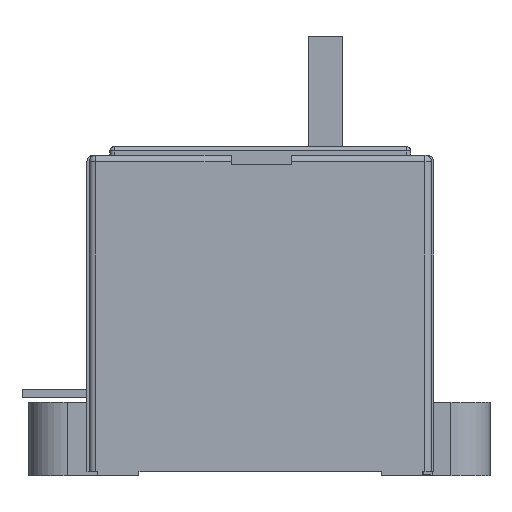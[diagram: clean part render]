
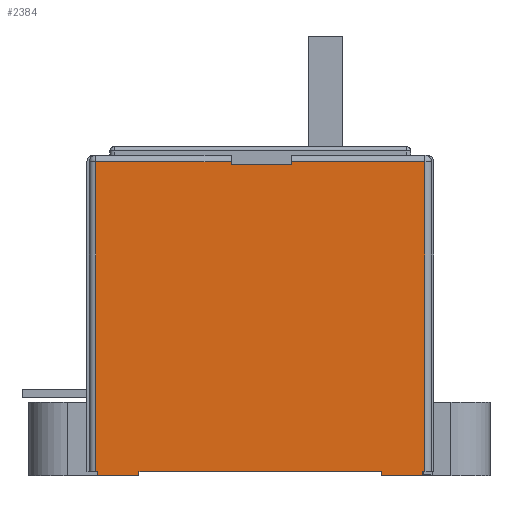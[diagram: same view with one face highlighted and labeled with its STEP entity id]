
A CAD part, left-side view. The second image highlights one B-rep face of the part: STEP entity #2384.
In plain terms, the highlighted planar face has unit normal (-1, 0, 0).
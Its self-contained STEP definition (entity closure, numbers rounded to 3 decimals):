
#230=PLANE('',#7351);
#563=FACE_OUTER_BOUND('',#2991,.T.);
#887=LINE('',#10126,#1609);
#936=LINE('',#10243,#1658);
#938=LINE('',#10249,#1660);
#1017=LINE('',#10598,#1739);
#1034=LINE('',#10685,#1756);
#1078=LINE('',#10799,#1800);
#1083=LINE('',#10811,#1805);
#1085=LINE('',#10814,#1807);
#1091=LINE('',#10827,#1813);
#1258=LINE('',#11165,#1980);
#1264=LINE('',#11176,#1986);
#1265=LINE('',#11180,#1987);
#1266=LINE('',#11182,#1988);
#1267=LINE('',#11184,#1989);
#1268=LINE('',#11185,#1990);
#1269=LINE('',#11186,#1991);
#1609=VECTOR('',#8157,1.);
#1658=VECTOR('',#8242,1.);
#1660=VECTOR('',#8248,1.);
#1739=VECTOR('',#8565,1.);
#1756=VECTOR('',#8682,1.);
#1800=VECTOR('',#8800,1.);
#1805=VECTOR('',#8807,1.);
#1807=VECTOR('',#8811,1.);
#1813=VECTOR('',#8819,1.);
#1980=VECTOR('',#9116,1.);
#1986=VECTOR('',#9128,1.);
#1987=VECTOR('',#9133,1.);
#1988=VECTOR('',#9134,1.);
#1989=VECTOR('',#9135,1.);
#1990=VECTOR('',#9136,1.);
#1991=VECTOR('',#9137,1.);
#2384=ADVANCED_FACE('',(#563),#230,.F.);
#2991=EDGE_LOOP('',(#4496,#4497,#4498,#4499,#4500,#4501,#4502,#4503,#4504,
#4505,#4506,#4507,#4508,#4509,#4510,#4511));
#4496=ORIENTED_EDGE('',*,*,#6468,.F.);
#4497=ORIENTED_EDGE('',*,*,#6213,.T.);
#4498=ORIENTED_EDGE('',*,*,#6015,.T.);
#4499=ORIENTED_EDGE('',*,*,#5959,.F.);
#4500=ORIENTED_EDGE('',*,*,#6018,.T.);
#4501=ORIENTED_EDGE('',*,*,#6170,.T.);
#4502=ORIENTED_EDGE('',*,*,#6470,.T.);
#4503=ORIENTED_EDGE('',*,*,#6471,.T.);
#4504=ORIENTED_EDGE('',*,*,#6472,.F.);
#4505=ORIENTED_EDGE('',*,*,#6269,.F.);
#4506=ORIENTED_EDGE('',*,*,#6274,.T.);
#4507=ORIENTED_EDGE('',*,*,#6473,.T.);
#4508=ORIENTED_EDGE('',*,*,#6282,.F.);
#4509=ORIENTED_EDGE('',*,*,#6276,.F.);
#4510=ORIENTED_EDGE('',*,*,#6462,.T.);
#4511=ORIENTED_EDGE('',*,*,#6474,.T.);
#5241=VERTEX_POINT('',#10125);
#5242=VERTEX_POINT('',#10127);
#5288=VERTEX_POINT('',#10244);
#5290=VERTEX_POINT('',#10250);
#5397=VERTEX_POINT('',#10593);
#5398=VERTEX_POINT('',#10597);
#5452=VERTEX_POINT('',#10800);
#5453=VERTEX_POINT('',#10801);
#5457=VERTEX_POINT('',#10810);
#5458=VERTEX_POINT('',#10815);
#5459=VERTEX_POINT('',#10816);
#5462=VERTEX_POINT('',#10824);
#5569=VERTEX_POINT('',#11164);
#5572=VERTEX_POINT('',#11177);
#5573=VERTEX_POINT('',#11181);
#5574=VERTEX_POINT('',#11183);
#5959=EDGE_CURVE('',#5241,#5242,#887,.T.);
#6015=EDGE_CURVE('',#5288,#5242,#936,.T.);
#6018=EDGE_CURVE('',#5241,#5290,#938,.T.);
#6170=EDGE_CURVE('',#5290,#5398,#1017,.T.);
#6213=EDGE_CURVE('',#5397,#5288,#1034,.T.);
#6269=EDGE_CURVE('',#5452,#5453,#1078,.T.);
#6274=EDGE_CURVE('',#5452,#5457,#1083,.T.);
#6276=EDGE_CURVE('',#5458,#5459,#1085,.T.);
#6282=EDGE_CURVE('',#5459,#5462,#1091,.T.);
#6462=EDGE_CURVE('',#5458,#5569,#1258,.T.);
#6468=EDGE_CURVE('',#5397,#5572,#1264,.T.);
#6470=EDGE_CURVE('',#5398,#5573,#1265,.T.);
#6471=EDGE_CURVE('',#5573,#5574,#1266,.T.);
#6472=EDGE_CURVE('',#5453,#5574,#1267,.T.);
#6473=EDGE_CURVE('',#5457,#5462,#1268,.T.);
#6474=EDGE_CURVE('',#5569,#5572,#1269,.T.);
#7351=AXIS2_PLACEMENT_3D('',#11187,#9138,#9139);
#8157=DIRECTION('',(0.,-1.,0.));
#8242=DIRECTION('',(0.,0.,-1.));
#8248=DIRECTION('',(0.,0.,1.));
#8565=DIRECTION('',(0.,1.,0.));
#8682=DIRECTION('',(0.,1.,0.));
#8800=DIRECTION('',(0.,1.,0.));
#8807=DIRECTION('',(0.,0.,1.));
#8811=DIRECTION('',(0.,1.,0.));
#8819=DIRECTION('',(0.,0.,1.));
#9116=DIRECTION('',(0.,0.,1.));
#9128=DIRECTION('',(0.,0.,-1.));
#9133=DIRECTION('',(0.,0.,-1.));
#9134=DIRECTION('',(0.,-1.,0.));
#9135=DIRECTION('',(0.,0.,1.));
#9136=DIRECTION('',(0.,-1.,0.));
#9137=DIRECTION('',(0.,-1.,0.));
#9138=DIRECTION('',(1.,0.,0.));
#9139=DIRECTION('',(0.,0.,-1.));
#10125=CARTESIAN_POINT('',(-66.,6.75,71.9));
#10126=CARTESIAN_POINT('',(-66.,37.5,71.9));
#10127=CARTESIAN_POINT('',(-66.,-7.25,71.9));
#10243=CARTESIAN_POINT('',(-66.,-7.25,74.));
#10244=CARTESIAN_POINT('',(-66.,-7.25,72.5));
#10249=CARTESIAN_POINT('',(-66.,6.75,74.));
#10250=CARTESIAN_POINT('',(-66.,6.75,72.5));
#10593=CARTESIAN_POINT('',(-66.,-38.,72.5));
#10597=CARTESIAN_POINT('',(-66.,38.,72.5));
#10598=CARTESIAN_POINT('',(-66.,38.,72.5));
#10685=CARTESIAN_POINT('',(-66.,38.,72.5));
#10799=CARTESIAN_POINT('',(-66.,28.,0.));
#10800=CARTESIAN_POINT('',(-66.,28.,0.));
#10801=CARTESIAN_POINT('',(-66.,37.5,0.));
#10810=CARTESIAN_POINT('',(-66.,28.,1.));
#10811=CARTESIAN_POINT('',(-66.,28.,-1.));
#10814=CARTESIAN_POINT('',(-66.,-37.5,0.));
#10815=CARTESIAN_POINT('',(-66.,-37.5,0.));
#10816=CARTESIAN_POINT('',(-66.,-28.,0.));
#10824=CARTESIAN_POINT('',(-66.,-28.,1.));
#10827=CARTESIAN_POINT('',(-66.,-28.,-1.));
#11164=CARTESIAN_POINT('',(-66.,-37.5,1.));
#11165=CARTESIAN_POINT('',(-66.,-37.5,-1.));
#11176=CARTESIAN_POINT('',(-66.,-38.,74.));
#11177=CARTESIAN_POINT('',(-66.,-38.,1.));
#11180=CARTESIAN_POINT('',(-66.,38.,74.));
#11181=CARTESIAN_POINT('',(-66.,38.,1.));
#11182=CARTESIAN_POINT('',(-66.,-37.5,1.));
#11183=CARTESIAN_POINT('',(-66.,37.5,1.));
#11184=CARTESIAN_POINT('',(-66.,37.5,-1.));
#11185=CARTESIAN_POINT('',(-66.,-37.5,1.));
#11186=CARTESIAN_POINT('',(-66.,-37.5,1.));
#11187=CARTESIAN_POINT('',(-66.,-37.5,74.));
